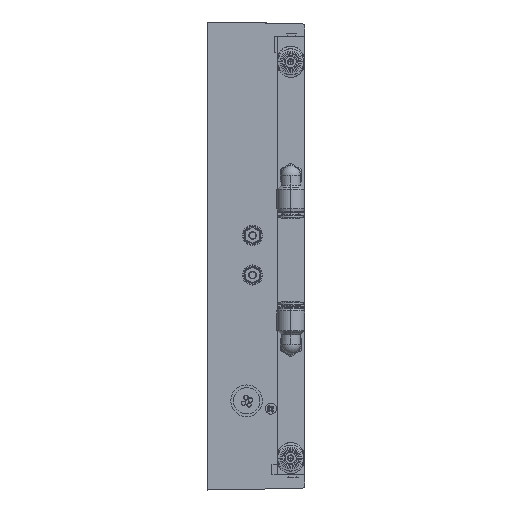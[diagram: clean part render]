
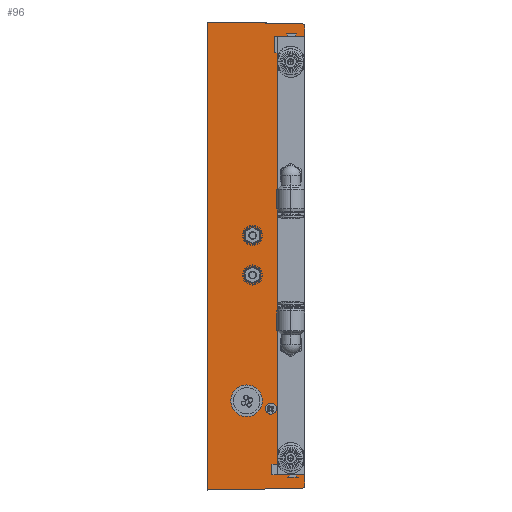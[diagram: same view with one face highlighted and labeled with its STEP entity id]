
A CAD part, left-side view. The second image highlights one B-rep face of the part: STEP entity #96.
In plain terms, the highlighted planar face has unit normal (-1, 0, 0).
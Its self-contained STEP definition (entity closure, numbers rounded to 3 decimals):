
#96 = ADVANCED_FACE ( 'NONE', ( #39547, #12679, #6187 ), #19618, .T. ) ;
#224 = ORIENTED_EDGE ( 'NONE', *, *, #23062, .F. ) ;
#688 = DIRECTION ( 'NONE',  ( 0., 0., -1. ) ) ;
#700 = ORIENTED_EDGE ( 'NONE', *, *, #3968, .T. ) ;
#1285 = DIRECTION ( 'NONE',  ( -1., 0., 0. ) ) ;
#1986 = ORIENTED_EDGE ( 'NONE', *, *, #42684, .F. ) ;
#3038 = VECTOR ( 'NONE', #11404, 1000. ) ;
#3045 = EDGE_LOOP ( 'NONE', ( #12110, #16305, #19522, #17260, #24986, #700, #31468, #41228, #31355, #27617, #224, #37144 ) ) ;
#3670 = EDGE_CURVE ( 'NONE', #20536, #17049, #33371, .T. ) ;
#3776 = CIRCLE ( 'NONE', #34537, 2.95 ) ;
#3968 = EDGE_CURVE ( 'NONE', #11509, #10038, #35578, .T. ) ;
#4026 = DIRECTION ( 'NONE',  ( -1., 0., 0. ) ) ;
#4055 = EDGE_CURVE ( 'NONE', #35560, #24866, #3776, .T. ) ;
#4212 = DIRECTION ( 'NONE',  ( 0., 0., 1. ) ) ;
#4486 = VECTOR ( 'NONE', #33813, 1000. ) ;
#5392 = AXIS2_PLACEMENT_3D ( 'NONE', #34717, #4026, #27948 ) ;
#5713 = LINE ( 'NONE', #12459, #29540 ) ;
#6013 = DIRECTION ( 'NONE',  ( 0., 0., 1. ) ) ;
#6187 = FACE_OUTER_BOUND ( 'NONE', #3045, .T. ) ;
#7108 = EDGE_LOOP ( 'NONE', ( #29039, #44327 ) ) ;
#7237 = CARTESIAN_POINT ( 'NONE',  ( -86.509, 314.772, 373.272 ) ) ;
#7411 = DIRECTION ( 'NONE',  ( 0., 0., 1. ) ) ;
#7827 = CARTESIAN_POINT ( 'NONE',  ( -86.509, 327.525, 469.123 ) ) ;
#8156 = VERTEX_POINT ( 'NONE', #23391 ) ;
#8770 = VECTOR ( 'NONE', #39629, 1000. ) ;
#8932 = CARTESIAN_POINT ( 'NONE',  ( -86.509, 327.525, 472.073 ) ) ;
#9602 = EDGE_CURVE ( 'NONE', #36263, #8156, #34190, .T. ) ;
#9776 = VERTEX_POINT ( 'NONE', #26091 ) ;
#9919 = LINE ( 'NONE', #23354, #24972 ) ;
#10038 = VERTEX_POINT ( 'NONE', #39197 ) ;
#11404 = DIRECTION ( 'NONE',  ( 0., 0., 1. ) ) ;
#11475 = CARTESIAN_POINT ( 'NONE',  ( -86.509, 314.772, 549.373 ) ) ;
#11509 = VERTEX_POINT ( 'NONE', #33985 ) ;
#11697 = AXIS2_PLACEMENT_3D ( 'NONE', #39243, #42616, #42827 ) ;
#12110 = ORIENTED_EDGE ( 'NONE', *, *, #29894, .T. ) ;
#12459 = CARTESIAN_POINT ( 'NONE',  ( -86.509, 318.175, 378.523 ) ) ;
#12679 = FACE_BOUND ( 'NONE', #7108, .T. ) ;
#12699 = LINE ( 'NONE', #39998, #24389 ) ;
#12966 = CARTESIAN_POINT ( 'NONE',  ( -86.509, 327.525, 454.123 ) ) ;
#13174 = DIRECTION ( 'NONE',  ( -1., 0., 0. ) ) ;
#13573 = DIRECTION ( 'NONE',  ( 0., 1., 0. ) ) ;
#14167 = LINE ( 'NONE', #20870, #19427 ) ;
#14210 = EDGE_LOOP ( 'NONE', ( #1986, #31875 ) ) ;
#14357 = VERTEX_POINT ( 'NONE', #36920 ) ;
#14608 = CARTESIAN_POINT ( 'NONE',  ( -86.509, 309.297, 549.305 ) ) ;
#14658 = VERTEX_POINT ( 'NONE', #18849 ) ;
#15670 = CARTESIAN_POINT ( 'NONE',  ( -86.509, 314.772, 373.272 ) ) ;
#16210 = AXIS2_PLACEMENT_3D ( 'NONE', #42894, #39310, #32815 ) ;
#16305 = ORIENTED_EDGE ( 'NONE', *, *, #39358, .T. ) ;
#16328 = DIRECTION ( 'NONE',  ( 0., 0., 1. ) ) ;
#16414 = DIRECTION ( 'NONE',  ( 0., 1., 0.017 ) ) ;
#16886 = VERTEX_POINT ( 'NONE', #7237 ) ;
#17049 = VERTEX_POINT ( 'NONE', #11475 ) ;
#17260 = ORIENTED_EDGE ( 'NONE', *, *, #9602, .F. ) ;
#17782 = EDGE_CURVE ( 'NONE', #24866, #35560, #38720, .T. ) ;
#17911 = LINE ( 'NONE', #24626, #24993 ) ;
#18521 = CARTESIAN_POINT ( 'NONE',  ( -86.509, 327.525, 469.123 ) ) ;
#18781 = CARTESIAN_POINT ( 'NONE',  ( -86.509, 307.725, 424.948 ) ) ;
#18849 = CARTESIAN_POINT ( 'NONE',  ( -86.509, 307.725, 373.835 ) ) ;
#19427 = VECTOR ( 'NONE', #20216, 1000. ) ;
#19520 = EDGE_CURVE ( 'NONE', #9776, #36989, #24991, .T. ) ;
#19522 = ORIENTED_EDGE ( 'NONE', *, *, #27565, .F. ) ;
#19613 = CARTESIAN_POINT ( 'NONE',  ( -86.509, 307.725, 378.523 ) ) ;
#19618 = PLANE ( 'NONE',  #16210 ) ;
#20155 = CARTESIAN_POINT ( 'NONE',  ( -86.509, 314.772, 549.373 ) ) ;
#20216 = DIRECTION ( 'NONE',  ( 0., 1., -0.017 ) ) ;
#20536 = VERTEX_POINT ( 'NONE', #14608 ) ;
#20870 = CARTESIAN_POINT ( 'NONE',  ( -86.509, 318.175, 373.213 ) ) ;
#23031 = VECTOR ( 'NONE', #37764, 1000. ) ;
#23062 = EDGE_CURVE ( 'NONE', #16886, #44200, #14167, .T. ) ;
#23354 = CARTESIAN_POINT ( 'NONE',  ( -86.509, 324.787, 549.548 ) ) ;
#23391 = CARTESIAN_POINT ( 'NONE',  ( -86.509, 318.175, 378.523 ) ) ;
#24085 = EDGE_CURVE ( 'NONE', #17049, #27615, #9919, .T. ) ;
#24101 = CARTESIAN_POINT ( 'NONE',  ( -86.509, 318.175, 404.523 ) ) ;
#24389 = VECTOR ( 'NONE', #13573, 1000. ) ;
#24626 = CARTESIAN_POINT ( 'NONE',  ( -86.509, 307.725, 424.948 ) ) ;
#24866 = VERTEX_POINT ( 'NONE', #8932 ) ;
#24972 = VECTOR ( 'NONE', #16414, 1000. ) ;
#24986 = ORIENTED_EDGE ( 'NONE', *, *, #26141, .F. ) ;
#24991 = CIRCLE ( 'NONE', #37883, 2.95 ) ;
#24993 = VECTOR ( 'NONE', #7411, 1000. ) ;
#25399 = VECTOR ( 'NONE', #688, 1000. ) ;
#25964 = LINE ( 'NONE', #15670, #8770 ) ;
#26091 = CARTESIAN_POINT ( 'NONE',  ( -86.509, 327.525, 451.173 ) ) ;
#26141 = EDGE_CURVE ( 'NONE', #11509, #36263, #12699, .T. ) ;
#26627 = AXIS2_PLACEMENT_3D ( 'NONE', #30204, #40299, #37594 ) ;
#27331 = CARTESIAN_POINT ( 'NONE',  ( -86.509, 344.725, 399.623 ) ) ;
#27565 = EDGE_CURVE ( 'NONE', #8156, #31916, #5713, .T. ) ;
#27615 = VERTEX_POINT ( 'NONE', #39087 ) ;
#27617 = ORIENTED_EDGE ( 'NONE', *, *, #34350, .T. ) ;
#27948 = DIRECTION ( 'NONE',  ( 0., 0., 1. ) ) ;
#28954 = CARTESIAN_POINT ( 'NONE',  ( -86.509, 327.525, 457.073 ) ) ;
#29039 = ORIENTED_EDGE ( 'NONE', *, *, #17782, .F. ) ;
#29498 = CIRCLE ( 'NONE', #26627, 3. ) ;
#29540 = VECTOR ( 'NONE', #36179, 1000. ) ;
#29894 = EDGE_CURVE ( 'NONE', #14357, #14658, #29498, .T. ) ;
#30088 = CARTESIAN_POINT ( 'NONE',  ( -86.509, 327.525, 466.173 ) ) ;
#30204 = CARTESIAN_POINT ( 'NONE',  ( -86.509, 309.335, 376.366 ) ) ;
#31355 = ORIENTED_EDGE ( 'NONE', *, *, #24085, .T. ) ;
#31468 = ORIENTED_EDGE ( 'NONE', *, *, #32612, .T. ) ;
#31875 = ORIENTED_EDGE ( 'NONE', *, *, #19520, .F. ) ;
#31916 = VERTEX_POINT ( 'NONE', #19613 ) ;
#32297 = AXIS2_PLACEMENT_3D ( 'NONE', #18521, #1285, #4212 ) ;
#32612 = EDGE_CURVE ( 'NONE', #10038, #20536, #44005, .T. ) ;
#32815 = DIRECTION ( 'NONE',  ( 0., 0., 1. ) ) ;
#33371 = LINE ( 'NONE', #20155, #4486 ) ;
#33813 = DIRECTION ( 'NONE',  ( 0., 1., 0.012 ) ) ;
#33985 = CARTESIAN_POINT ( 'NONE',  ( -86.509, 307.725, 544.423 ) ) ;
#34184 = CARTESIAN_POINT ( 'NONE',  ( -86.509, 318.175, 544.423 ) ) ;
#34190 = LINE ( 'NONE', #24101, #23031 ) ;
#34350 = EDGE_CURVE ( 'NONE', #27615, #44200, #44143, .T. ) ;
#34537 = AXIS2_PLACEMENT_3D ( 'NONE', #7827, #13174, #6013 ) ;
#34717 = CARTESIAN_POINT ( 'NONE',  ( -86.509, 309.335, 546.305 ) ) ;
#35287 = CIRCLE ( 'NONE', #11697, 2.95 ) ;
#35560 = VERTEX_POINT ( 'NONE', #30088 ) ;
#35578 = LINE ( 'NONE', #18781, #3038 ) ;
#36179 = DIRECTION ( 'NONE',  ( 0., -1., 0. ) ) ;
#36263 = VERTEX_POINT ( 'NONE', #34184 ) ;
#36920 = CARTESIAN_POINT ( 'NONE',  ( -86.509, 309.283, 373.366 ) ) ;
#36989 = VERTEX_POINT ( 'NONE', #28954 ) ;
#37144 = ORIENTED_EDGE ( 'NONE', *, *, #41943, .T. ) ;
#37594 = DIRECTION ( 'NONE',  ( 0., 0., 1. ) ) ;
#37764 = DIRECTION ( 'NONE',  ( 0., 0., -1. ) ) ;
#37883 = AXIS2_PLACEMENT_3D ( 'NONE', #12966, #40295, #16328 ) ;
#38720 = CIRCLE ( 'NONE', #32297, 2.95 ) ;
#39087 = CARTESIAN_POINT ( 'NONE',  ( -86.509, 344.725, 549.896 ) ) ;
#39197 = CARTESIAN_POINT ( 'NONE',  ( -86.509, 307.725, 548.837 ) ) ;
#39243 = CARTESIAN_POINT ( 'NONE',  ( -86.509, 327.525, 454.123 ) ) ;
#39310 = DIRECTION ( 'NONE',  ( -1., 0., 0. ) ) ;
#39358 = EDGE_CURVE ( 'NONE', #14658, #31916, #17911, .T. ) ;
#39547 = FACE_BOUND ( 'NONE', #14210, .T. ) ;
#39629 = DIRECTION ( 'NONE',  ( 0., -1., 0.017 ) ) ;
#39998 = CARTESIAN_POINT ( 'NONE',  ( -86.509, 318.175, 544.423 ) ) ;
#40295 = DIRECTION ( 'NONE',  ( -1., 0., 0. ) ) ;
#40299 = DIRECTION ( 'NONE',  ( -1., 0., 0. ) ) ;
#41228 = ORIENTED_EDGE ( 'NONE', *, *, #3670, .T. ) ;
#41239 = CARTESIAN_POINT ( 'NONE',  ( -86.509, 344.725, 372.749 ) ) ;
#41943 = EDGE_CURVE ( 'NONE', #16886, #14357, #25964, .T. ) ;
#42616 = DIRECTION ( 'NONE',  ( -1., 0., 0. ) ) ;
#42684 = EDGE_CURVE ( 'NONE', #36989, #9776, #35287, .T. ) ;
#42827 = DIRECTION ( 'NONE',  ( 0., 0., 1. ) ) ;
#42894 = CARTESIAN_POINT ( 'NONE',  ( -86.509, 326.962, 424.948 ) ) ;
#44005 = CIRCLE ( 'NONE', #5392, 3. ) ;
#44143 = LINE ( 'NONE', #27331, #25399 ) ;
#44200 = VERTEX_POINT ( 'NONE', #41239 ) ;
#44327 = ORIENTED_EDGE ( 'NONE', *, *, #4055, .F. ) ;
